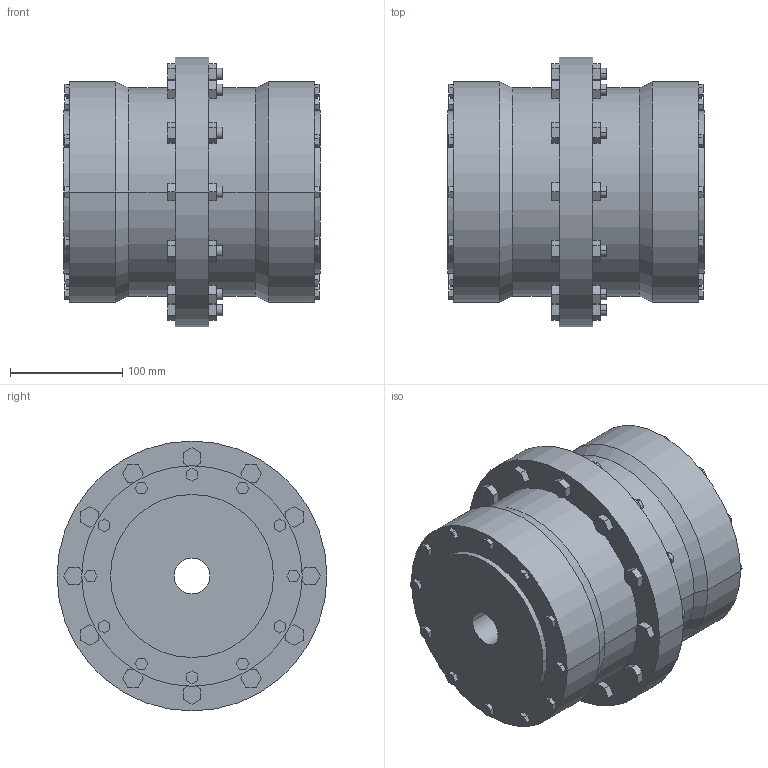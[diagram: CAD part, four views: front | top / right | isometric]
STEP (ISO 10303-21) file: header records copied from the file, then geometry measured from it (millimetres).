
FILE_DESCRIPTION((''),'2;1');
FILE_NAME('A18978300-0_ASM','2018-09-26T',('AB_Roschiwal'),('RENK AG'),'PRO/ENGINEER BY PARAMETRIC TECHNOLOGY CORPORATION, 2015440','PRO/ENGINEER BY PARAMETRIC TECHNOLOGY CORPORATION, 2015440','');
FILE_SCHEMA(('CONFIG_CONTROL_DESIGN'));
Length unit declared in the file: millimetre
Products named in the file (3): SBK90_GEHAEUSE; SBK90_NABE; A18978300-0_ASM
Assembly tree (3 placements, depth 2):
  A18978300-0_ASM
    SBK90_GEHAEUSE
    SBK90_NABE  x2
Bounding box: 228 x 240 x 240 mm (x, y, z)
Volume: 5960668.3 mm3; surface area: 547227.4 mm2
Topology: 3 solids, 3 shells, 422 faces, 1036 edges, 688 vertices
Faces by surface type: plane 362, cylinder 56, cone 4
Entity records: 12052 total; most frequent: CARTESIAN_POINT 2100, ORIENTED_EDGE 2024, DIRECTION 1940, EDGE_CURVE 1012, VECTOR 916, LINE 916, VERTEX_POINT 672, AXIS2_PLACEMENT_3D 512
